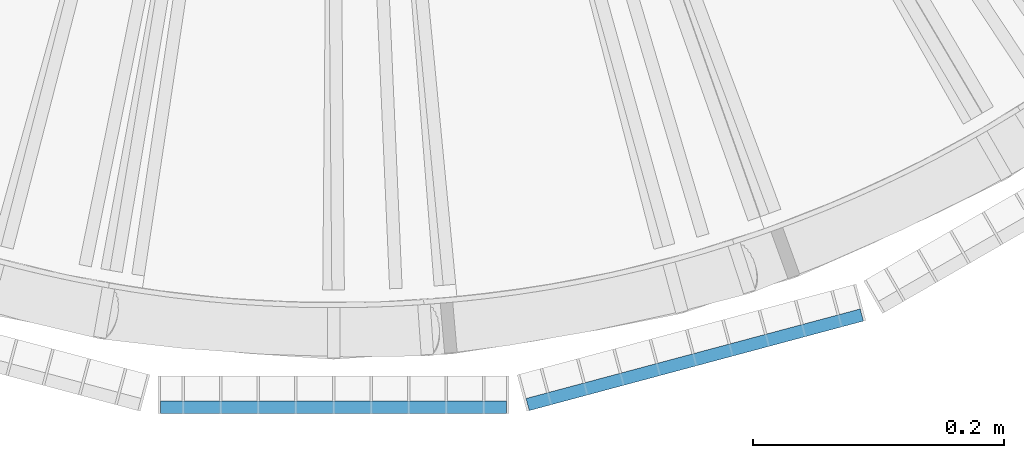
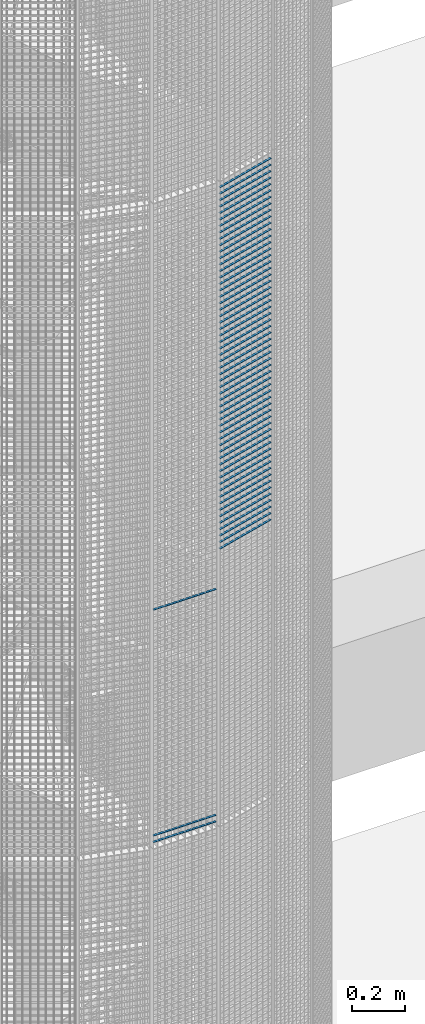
# One storey, part 383 of 1148: 60 beams, 2 elements without a shape of their own.
"""IFC2X3 building model written with IfcOpenShell, lengths in millimetres."""

from ifc_helpers import new_model, si_unit, frame, origin_with_axes, origin_2d_with_axis, place, context, subcontext, project, spatial, rectangle, extrude, material, type_object, element, aggregate, save


model = new_model("IFC2X3")

# Units and contexts
model_context = context("Model", 3, precision=1e-05, world=origin_with_axes())
body_context = subcontext(model_context, "Body", "Model", "MODEL_VIEW")
ifc_project = project(units=[si_unit("LENGTHUNIT", "METRE", prefix="MILLI"), si_unit("AREAUNIT", "SQUARE_METRE"), si_unit("VOLUMEUNIT", "CUBIC_METRE"), si_unit("MASSUNIT", "GRAM", prefix="KILO"), si_unit("TIMEUNIT", "SECOND"), si_unit("PLANEANGLEUNIT", "RADIAN"), si_unit("SOLIDANGLEUNIT", "STERADIAN"), si_unit("THERMODYNAMICTEMPERATUREUNIT", "DEGREE_CELSIUS"), si_unit("LUMINOUSINTENSITYUNIT", "LUMEN")], contexts=[model_context])

# Site, building, storey
site_placement = place(None, origin_with_axes())
site = spatial("IfcSite", under=ifc_project, at=site_placement, Name="Undefined", CompositionType="ELEMENT")
building_placement = place(site_placement, origin_with_axes())
building = spatial("IfcBuilding", under=site, at=building_placement, Name="Undefined", CompositionType="ELEMENT")
storey_placement = place(building_placement, origin_with_axes())
storey = spatial("IfcBuildingStorey", under=building, at=storey_placement, Name="Undefined", CompositionType="ELEMENT", Elevation=0.0)

# Assembly, beams
assembly_1_placement = place(storey_placement, origin_with_axes())
assembly_1 = element("IfcElementAssembly", 1, at=assembly_1_placement, inside=storey, Name="BORDURE", AssemblyPlace="NOTDEFINED", PredefinedType="NOTDEFINED")
ifc_material = material(Name="STEEL/S235JR")
beam_type = type_object("IfcBeamType", Name="PL2*10", PredefinedType="NOTDEFINED")
beam_1_placement = place(assembly_1_placement, frame((21737.9960033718, -1113.47999999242, 12060.0), z_axis=(0.0, -1.0, 0.0), x_axis=(-1.0, 0.0, 0.0)))
beam_1 = element("IfcBeam", 2, at=beam_1_placement, type_object=beam_type, material=ifc_material, Name="ENTRETOISE", context=body_context, shape_type="SweptSolid", body=[
    extrude(rectangle(XDim=2.0, YDim=10.0, at=origin_2d_with_axis()), frame((275.999999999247, 9.09494701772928e-13, 1.53210777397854e-14), z_axis=(-1.0, 0.0, 0.0), x_axis=(0.0, -1.0, 0.0)), (0.0, 0.0, 1.0), 276.0),
])
beam_2_placement = place(assembly_1_placement, frame((21737.9960033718, -1113.47999999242, 13110.0), z_axis=(0.0, -1.0, 0.0), x_axis=(-1.0, 0.0, 0.0)))
beam_2 = element("IfcBeam", 3, at=beam_2_placement, type_object=beam_type, material=ifc_material, Name="ENTRETOISE", context=body_context, shape_type="SweptSolid", body=[
    extrude(rectangle(XDim=2.0, YDim=10.0, at=origin_2d_with_axis()), frame((275.999999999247, 9.09494701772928e-13, 1.53210777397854e-14), z_axis=(-1.0, 0.0, 0.0), x_axis=(0.0, -1.0, 0.0)), (0.0, 0.0, 1.0), 276.0),
])
beam_3_placement = place(assembly_1_placement, frame((21737.9960033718, -1113.47999999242, 12030.0), z_axis=(0.0, -1.0, 0.0), x_axis=(-1.0, 0.0, 0.0)))
beam_3 = element("IfcBeam", 4, at=beam_3_placement, type_object=beam_type, material=ifc_material, Name="ENTRETOISE", context=body_context, shape_type="SweptSolid", body=[
    extrude(rectangle(XDim=2.0, YDim=10.0, at=origin_2d_with_axis()), frame((275.999999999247, 9.09494701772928e-13, 1.53210777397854e-14), z_axis=(-1.0, 0.0, 0.0), x_axis=(0.0, -1.0, 0.0)), (0.0, 0.0, 1.0), 276.0),
])
aggregate(assembly_1, [beam_1, beam_2, beam_3])

assembly_2_placement = place(storey_placement, origin_with_axes())
assembly_2 = element("IfcElementAssembly", 5, at=assembly_2_placement, inside=storey, Name="BORDURE", AssemblyPlace="NOTDEFINED", PredefinedType="NOTDEFINED")
beam_4_placement = place(assembly_2_placement, frame((22021.4837339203, -1039.82309522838, 14970.0), z_axis=(0.258819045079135, -0.965925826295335, 0.0), x_axis=(-0.965925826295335, -0.258819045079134, 0.0)))
beam_4 = element("IfcBeam", 6, at=beam_4_placement, type_object=beam_type, material=ifc_material, Name="ENTRETOISE", context=body_context, shape_type="SweptSolid", body=[
    extrude(rectangle(XDim=2.0, YDim=10.0, at=origin_2d_with_axis()), frame((275.999999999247, 9.09494701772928e-13, 1.53210777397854e-14), z_axis=(-1.0, 0.0, 0.0), x_axis=(0.0, -1.0, 0.0)), (0.0, 0.0, 1.0), 276.0),
])
beam_5_placement = place(assembly_2_placement, frame((22021.4837339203, -1039.82309522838, 14940.0), z_axis=(0.258819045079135, -0.965925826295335, 0.0), x_axis=(-0.965925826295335, -0.258819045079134, 0.0)))
beam_5 = element("IfcBeam", 7, at=beam_5_placement, type_object=beam_type, material=ifc_material, Name="ENTRETOISE", context=body_context, shape_type="SweptSolid", body=[
    extrude(rectangle(XDim=2.0, YDim=10.0, at=origin_2d_with_axis()), frame((275.999999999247, 9.09494701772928e-13, 1.53210777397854e-14), z_axis=(-1.0, 0.0, 0.0), x_axis=(0.0, -1.0, 0.0)), (0.0, 0.0, 1.0), 276.0),
])
beam_6_placement = place(assembly_2_placement, frame((22021.4837339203, -1039.82309522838, 14910.0), z_axis=(0.258819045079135, -0.965925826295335, 0.0), x_axis=(-0.965925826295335, -0.258819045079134, 0.0)))
beam_6 = element("IfcBeam", 8, at=beam_6_placement, type_object=beam_type, material=ifc_material, Name="ENTRETOISE", context=body_context, shape_type="SweptSolid", body=[
    extrude(rectangle(XDim=2.0, YDim=10.0, at=origin_2d_with_axis()), frame((275.999999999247, 9.09494701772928e-13, 1.53210777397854e-14), z_axis=(-1.0, 0.0, 0.0), x_axis=(0.0, -1.0, 0.0)), (0.0, 0.0, 1.0), 276.0),
])
beam_7_placement = place(assembly_2_placement, frame((22021.4837339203, -1039.82309522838, 14880.0), z_axis=(0.258819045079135, -0.965925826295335, 0.0), x_axis=(-0.965925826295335, -0.258819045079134, 0.0)))
beam_7 = element("IfcBeam", 9, at=beam_7_placement, type_object=beam_type, material=ifc_material, Name="ENTRETOISE", context=body_context, shape_type="SweptSolid", body=[
    extrude(rectangle(XDim=2.0, YDim=10.0, at=origin_2d_with_axis()), frame((275.999999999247, 9.09494701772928e-13, 1.53210777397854e-14), z_axis=(-1.0, 0.0, 0.0), x_axis=(0.0, -1.0, 0.0)), (0.0, 0.0, 1.0), 276.0),
])
beam_8_placement = place(assembly_2_placement, frame((22021.4837339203, -1039.82309522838, 14850.0), z_axis=(0.258819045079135, -0.965925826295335, 0.0), x_axis=(-0.965925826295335, -0.258819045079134, 0.0)))
beam_8 = element("IfcBeam", 10, at=beam_8_placement, type_object=beam_type, material=ifc_material, Name="ENTRETOISE", context=body_context, shape_type="SweptSolid", body=[
    extrude(rectangle(XDim=2.0, YDim=10.0, at=origin_2d_with_axis()), frame((275.999999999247, 9.09494701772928e-13, 1.53210777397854e-14), z_axis=(-1.0, 0.0, 0.0), x_axis=(0.0, -1.0, 0.0)), (0.0, 0.0, 1.0), 276.0),
])
beam_9_placement = place(assembly_2_placement, frame((22021.4837339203, -1039.82309522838, 14820.0), z_axis=(0.258819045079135, -0.965925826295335, 0.0), x_axis=(-0.965925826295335, -0.258819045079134, 0.0)))
beam_9 = element("IfcBeam", 11, at=beam_9_placement, type_object=beam_type, material=ifc_material, Name="ENTRETOISE", context=body_context, shape_type="SweptSolid", body=[
    extrude(rectangle(XDim=2.0, YDim=10.0, at=origin_2d_with_axis()), frame((275.999999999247, 9.09494701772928e-13, 1.53210777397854e-14), z_axis=(-1.0, 0.0, 0.0), x_axis=(0.0, -1.0, 0.0)), (0.0, 0.0, 1.0), 276.0),
])
beam_10_placement = place(assembly_2_placement, frame((22021.4837339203, -1039.82309522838, 14790.0), z_axis=(0.258819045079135, -0.965925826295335, 0.0), x_axis=(-0.965925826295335, -0.258819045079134, 0.0)))
beam_10 = element("IfcBeam", 12, at=beam_10_placement, type_object=beam_type, material=ifc_material, Name="ENTRETOISE", context=body_context, shape_type="SweptSolid", body=[
    extrude(rectangle(XDim=2.0, YDim=10.0, at=origin_2d_with_axis()), frame((275.999999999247, 9.09494701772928e-13, 1.53210777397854e-14), z_axis=(-1.0, 0.0, 0.0), x_axis=(0.0, -1.0, 0.0)), (0.0, 0.0, 1.0), 276.0),
])
beam_11_placement = place(assembly_2_placement, frame((22021.4837339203, -1039.82309522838, 14760.0), z_axis=(0.258819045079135, -0.965925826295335, 0.0), x_axis=(-0.965925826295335, -0.258819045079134, 0.0)))
beam_11 = element("IfcBeam", 13, at=beam_11_placement, type_object=beam_type, material=ifc_material, Name="ENTRETOISE", context=body_context, shape_type="SweptSolid", body=[
    extrude(rectangle(XDim=2.0, YDim=10.0, at=origin_2d_with_axis()), frame((275.999999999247, 9.09494701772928e-13, 1.53210777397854e-14), z_axis=(-1.0, 0.0, 0.0), x_axis=(0.0, -1.0, 0.0)), (0.0, 0.0, 1.0), 276.0),
])
beam_12_placement = place(assembly_2_placement, frame((22021.4837339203, -1039.82309522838, 14730.0), z_axis=(0.258819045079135, -0.965925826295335, 0.0), x_axis=(-0.965925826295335, -0.258819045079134, 0.0)))
beam_12 = element("IfcBeam", 14, at=beam_12_placement, type_object=beam_type, material=ifc_material, Name="ENTRETOISE", context=body_context, shape_type="SweptSolid", body=[
    extrude(rectangle(XDim=2.0, YDim=10.0, at=origin_2d_with_axis()), frame((275.999999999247, 9.09494701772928e-13, 1.53210777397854e-14), z_axis=(-1.0, 0.0, 0.0), x_axis=(0.0, -1.0, 0.0)), (0.0, 0.0, 1.0), 276.0),
])
beam_13_placement = place(assembly_2_placement, frame((22021.4837339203, -1039.82309522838, 14700.0), z_axis=(0.258819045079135, -0.965925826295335, 0.0), x_axis=(-0.965925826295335, -0.258819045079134, 0.0)))
beam_13 = element("IfcBeam", 15, at=beam_13_placement, type_object=beam_type, material=ifc_material, Name="ENTRETOISE", context=body_context, shape_type="SweptSolid", body=[
    extrude(rectangle(XDim=2.0, YDim=10.0, at=origin_2d_with_axis()), frame((275.999999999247, 9.09494701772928e-13, 1.53210777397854e-14), z_axis=(-1.0, 0.0, 0.0), x_axis=(0.0, -1.0, 0.0)), (0.0, 0.0, 1.0), 276.0),
])
beam_14_placement = place(assembly_2_placement, frame((22021.4837339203, -1039.82309522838, 14670.0), z_axis=(0.258819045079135, -0.965925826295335, 0.0), x_axis=(-0.965925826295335, -0.258819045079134, 0.0)))
beam_14 = element("IfcBeam", 16, at=beam_14_placement, type_object=beam_type, material=ifc_material, Name="ENTRETOISE", context=body_context, shape_type="SweptSolid", body=[
    extrude(rectangle(XDim=2.0, YDim=10.0, at=origin_2d_with_axis()), frame((275.999999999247, 9.09494701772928e-13, 1.53210777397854e-14), z_axis=(-1.0, 0.0, 0.0), x_axis=(0.0, -1.0, 0.0)), (0.0, 0.0, 1.0), 276.0),
])
beam_15_placement = place(assembly_2_placement, frame((22021.4837339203, -1039.82309522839, 14640.0), z_axis=(0.258819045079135, -0.965925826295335, 0.0), x_axis=(-0.965925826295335, -0.258819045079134, 0.0)))
beam_15 = element("IfcBeam", 17, at=beam_15_placement, type_object=beam_type, material=ifc_material, Name="ENTRETOISE", context=body_context, shape_type="SweptSolid", body=[
    extrude(rectangle(XDim=2.0, YDim=10.0, at=origin_2d_with_axis()), frame((275.999999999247, 9.09494701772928e-13, 1.53210777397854e-14), z_axis=(-1.0, 0.0, 0.0), x_axis=(0.0, -1.0, 0.0)), (0.0, 0.0, 1.0), 276.0),
])
beam_16_placement = place(assembly_2_placement, frame((22021.4837339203, -1039.82309522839, 14610.0), z_axis=(0.258819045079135, -0.965925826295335, 0.0), x_axis=(-0.965925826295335, -0.258819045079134, 0.0)))
beam_16 = element("IfcBeam", 18, at=beam_16_placement, type_object=beam_type, material=ifc_material, Name="ENTRETOISE", context=body_context, shape_type="SweptSolid", body=[
    extrude(rectangle(XDim=2.0, YDim=10.0, at=origin_2d_with_axis()), frame((275.999999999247, 9.09494701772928e-13, 1.53210777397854e-14), z_axis=(-1.0, 0.0, 0.0), x_axis=(0.0, -1.0, 0.0)), (0.0, 0.0, 1.0), 276.0),
])
beam_17_placement = place(assembly_2_placement, frame((22021.4837339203, -1039.82309522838, 14580.0), z_axis=(0.258819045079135, -0.965925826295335, 0.0), x_axis=(-0.965925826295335, -0.258819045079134, 0.0)))
beam_17 = element("IfcBeam", 19, at=beam_17_placement, type_object=beam_type, material=ifc_material, Name="ENTRETOISE", context=body_context, shape_type="SweptSolid", body=[
    extrude(rectangle(XDim=2.0, YDim=10.0, at=origin_2d_with_axis()), frame((275.999999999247, 9.09494701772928e-13, 1.53210777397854e-14), z_axis=(-1.0, 0.0, 0.0), x_axis=(0.0, -1.0, 0.0)), (0.0, 0.0, 1.0), 276.0),
])
beam_18_placement = place(assembly_2_placement, frame((22021.4837339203, -1039.82309522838, 14550.0), z_axis=(0.258819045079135, -0.965925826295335, 0.0), x_axis=(-0.965925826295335, -0.258819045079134, 0.0)))
beam_18 = element("IfcBeam", 20, at=beam_18_placement, type_object=beam_type, material=ifc_material, Name="ENTRETOISE", context=body_context, shape_type="SweptSolid", body=[
    extrude(rectangle(XDim=2.0, YDim=10.0, at=origin_2d_with_axis()), frame((275.999999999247, 9.09494701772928e-13, 1.53210777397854e-14), z_axis=(-1.0, 0.0, 0.0), x_axis=(0.0, -1.0, 0.0)), (0.0, 0.0, 1.0), 276.0),
])
beam_19_placement = place(assembly_2_placement, frame((22021.4837339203, -1039.82309522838, 14520.0), z_axis=(0.258819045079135, -0.965925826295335, 0.0), x_axis=(-0.965925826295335, -0.258819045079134, 0.0)))
beam_19 = element("IfcBeam", 21, at=beam_19_placement, type_object=beam_type, material=ifc_material, Name="ENTRETOISE", context=body_context, shape_type="SweptSolid", body=[
    extrude(rectangle(XDim=2.0, YDim=10.0, at=origin_2d_with_axis()), frame((275.999999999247, 9.09494701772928e-13, 1.53210777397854e-14), z_axis=(-1.0, 0.0, 0.0), x_axis=(0.0, -1.0, 0.0)), (0.0, 0.0, 1.0), 276.0),
])
beam_20_placement = place(assembly_2_placement, frame((22021.4837339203, -1039.82309522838, 14490.0), z_axis=(0.258819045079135, -0.965925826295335, 0.0), x_axis=(-0.965925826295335, -0.258819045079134, 0.0)))
beam_20 = element("IfcBeam", 22, at=beam_20_placement, type_object=beam_type, material=ifc_material, Name="ENTRETOISE", context=body_context, shape_type="SweptSolid", body=[
    extrude(rectangle(XDim=2.0, YDim=10.0, at=origin_2d_with_axis()), frame((275.999999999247, 9.09494701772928e-13, 1.53210777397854e-14), z_axis=(-1.0, 0.0, 0.0), x_axis=(0.0, -1.0, 0.0)), (0.0, 0.0, 1.0), 276.0),
])
beam_21_placement = place(assembly_2_placement, frame((22021.4837339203, -1039.82309522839, 14460.0), z_axis=(0.258819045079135, -0.965925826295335, 0.0), x_axis=(-0.965925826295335, -0.258819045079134, 0.0)))
beam_21 = element("IfcBeam", 23, at=beam_21_placement, type_object=beam_type, material=ifc_material, Name="ENTRETOISE", context=body_context, shape_type="SweptSolid", body=[
    extrude(rectangle(XDim=2.0, YDim=10.0, at=origin_2d_with_axis()), frame((275.999999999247, 9.09494701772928e-13, 1.53210777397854e-14), z_axis=(-1.0, 0.0, 0.0), x_axis=(0.0, -1.0, 0.0)), (0.0, 0.0, 1.0), 276.0),
])
beam_22_placement = place(assembly_2_placement, frame((22021.4837339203, -1039.82309522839, 14430.0), z_axis=(0.258819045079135, -0.965925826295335, 0.0), x_axis=(-0.965925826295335, -0.258819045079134, 0.0)))
beam_22 = element("IfcBeam", 24, at=beam_22_placement, type_object=beam_type, material=ifc_material, Name="ENTRETOISE", context=body_context, shape_type="SweptSolid", body=[
    extrude(rectangle(XDim=2.0, YDim=10.0, at=origin_2d_with_axis()), frame((275.999999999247, 9.09494701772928e-13, 1.53210777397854e-14), z_axis=(-1.0, 0.0, 0.0), x_axis=(0.0, -1.0, 0.0)), (0.0, 0.0, 1.0), 276.0),
])
beam_23_placement = place(assembly_2_placement, frame((22021.4837339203, -1039.82309522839, 14400.0), z_axis=(0.258819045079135, -0.965925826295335, 0.0), x_axis=(-0.965925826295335, -0.258819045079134, 0.0)))
beam_23 = element("IfcBeam", 25, at=beam_23_placement, type_object=beam_type, material=ifc_material, Name="ENTRETOISE", context=body_context, shape_type="SweptSolid", body=[
    extrude(rectangle(XDim=2.0, YDim=10.0, at=origin_2d_with_axis()), frame((275.999999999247, 9.09494701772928e-13, 1.53210777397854e-14), z_axis=(-1.0, 0.0, 0.0), x_axis=(0.0, -1.0, 0.0)), (0.0, 0.0, 1.0), 276.0),
])
beam_24_placement = place(assembly_2_placement, frame((22021.4837339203, -1039.82309522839, 14370.0), z_axis=(0.258819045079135, -0.965925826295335, 0.0), x_axis=(-0.965925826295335, -0.258819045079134, 0.0)))
beam_24 = element("IfcBeam", 26, at=beam_24_placement, type_object=beam_type, material=ifc_material, Name="ENTRETOISE", context=body_context, shape_type="SweptSolid", body=[
    extrude(rectangle(XDim=2.0, YDim=10.0, at=origin_2d_with_axis()), frame((275.999999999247, 9.09494701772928e-13, 1.53210777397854e-14), z_axis=(-1.0, 0.0, 0.0), x_axis=(0.0, -1.0, 0.0)), (0.0, 0.0, 1.0), 276.0),
])
beam_25_placement = place(assembly_2_placement, frame((22021.4837339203, -1039.82309522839, 14340.0), z_axis=(0.258819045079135, -0.965925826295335, 0.0), x_axis=(-0.965925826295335, -0.258819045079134, 0.0)))
beam_25 = element("IfcBeam", 27, at=beam_25_placement, type_object=beam_type, material=ifc_material, Name="ENTRETOISE", context=body_context, shape_type="SweptSolid", body=[
    extrude(rectangle(XDim=2.0, YDim=10.0, at=origin_2d_with_axis()), frame((275.999999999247, 9.09494701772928e-13, 1.53210777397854e-14), z_axis=(-1.0, 0.0, 0.0), x_axis=(0.0, -1.0, 0.0)), (0.0, 0.0, 1.0), 276.0),
])
beam_26_placement = place(assembly_2_placement, frame((22021.4837339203, -1039.82309522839, 14310.0), z_axis=(0.258819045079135, -0.965925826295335, 0.0), x_axis=(-0.965925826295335, -0.258819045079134, 0.0)))
beam_26 = element("IfcBeam", 28, at=beam_26_placement, type_object=beam_type, material=ifc_material, Name="ENTRETOISE", context=body_context, shape_type="SweptSolid", body=[
    extrude(rectangle(XDim=2.0, YDim=10.0, at=origin_2d_with_axis()), frame((275.999999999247, 9.09494701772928e-13, 1.53210777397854e-14), z_axis=(-1.0, 0.0, 0.0), x_axis=(0.0, -1.0, 0.0)), (0.0, 0.0, 1.0), 276.0),
])
beam_27_placement = place(assembly_2_placement, frame((22021.4837339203, -1039.82309522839, 14280.0), z_axis=(0.258819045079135, -0.965925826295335, 0.0), x_axis=(-0.965925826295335, -0.258819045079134, 0.0)))
beam_27 = element("IfcBeam", 29, at=beam_27_placement, type_object=beam_type, material=ifc_material, Name="ENTRETOISE", context=body_context, shape_type="SweptSolid", body=[
    extrude(rectangle(XDim=2.0, YDim=10.0, at=origin_2d_with_axis()), frame((275.999999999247, 9.09494701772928e-13, 1.53210777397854e-14), z_axis=(-1.0, 0.0, 0.0), x_axis=(0.0, -1.0, 0.0)), (0.0, 0.0, 1.0), 276.0),
])
beam_28_placement = place(assembly_2_placement, frame((22021.4837339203, -1039.82309522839, 14250.0), z_axis=(0.258819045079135, -0.965925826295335, 0.0), x_axis=(-0.965925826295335, -0.258819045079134, 0.0)))
beam_28 = element("IfcBeam", 30, at=beam_28_placement, type_object=beam_type, material=ifc_material, Name="ENTRETOISE", context=body_context, shape_type="SweptSolid", body=[
    extrude(rectangle(XDim=2.0, YDim=10.0, at=origin_2d_with_axis()), frame((275.999999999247, 9.09494701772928e-13, 1.53210777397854e-14), z_axis=(-1.0, 0.0, 0.0), x_axis=(0.0, -1.0, 0.0)), (0.0, 0.0, 1.0), 276.0),
])
beam_29_placement = place(assembly_2_placement, frame((22021.4837339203, -1039.82309522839, 14220.0), z_axis=(0.258819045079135, -0.965925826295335, 0.0), x_axis=(-0.965925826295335, -0.258819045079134, 0.0)))
beam_29 = element("IfcBeam", 31, at=beam_29_placement, type_object=beam_type, material=ifc_material, Name="ENTRETOISE", context=body_context, shape_type="SweptSolid", body=[
    extrude(rectangle(XDim=2.0, YDim=10.0, at=origin_2d_with_axis()), frame((275.999999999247, 9.09494701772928e-13, 1.53210777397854e-14), z_axis=(-1.0, 0.0, 0.0), x_axis=(0.0, -1.0, 0.0)), (0.0, 0.0, 1.0), 276.0),
])
beam_30_placement = place(assembly_2_placement, frame((22021.4837339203, -1039.82309522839, 14190.0), z_axis=(0.258819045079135, -0.965925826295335, 0.0), x_axis=(-0.965925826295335, -0.258819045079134, 0.0)))
beam_30 = element("IfcBeam", 32, at=beam_30_placement, type_object=beam_type, material=ifc_material, Name="ENTRETOISE", context=body_context, shape_type="SweptSolid", body=[
    extrude(rectangle(XDim=2.0, YDim=10.0, at=origin_2d_with_axis()), frame((275.999999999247, 9.09494701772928e-13, 1.53210777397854e-14), z_axis=(-1.0, 0.0, 0.0), x_axis=(0.0, -1.0, 0.0)), (0.0, 0.0, 1.0), 276.0),
])
beam_31_placement = place(assembly_2_placement, frame((22021.4837339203, -1039.82309522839, 14160.0), z_axis=(0.258819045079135, -0.965925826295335, 0.0), x_axis=(-0.965925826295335, -0.258819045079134, 0.0)))
beam_31 = element("IfcBeam", 33, at=beam_31_placement, type_object=beam_type, material=ifc_material, Name="ENTRETOISE", context=body_context, shape_type="SweptSolid", body=[
    extrude(rectangle(XDim=2.0, YDim=10.0, at=origin_2d_with_axis()), frame((275.999999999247, 9.09494701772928e-13, 1.53210777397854e-14), z_axis=(-1.0, 0.0, 0.0), x_axis=(0.0, -1.0, 0.0)), (0.0, 0.0, 1.0), 276.0),
])
beam_32_placement = place(assembly_2_placement, frame((22021.4837339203, -1039.82309522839, 14130.0), z_axis=(0.258819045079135, -0.965925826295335, 0.0), x_axis=(-0.965925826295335, -0.258819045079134, 0.0)))
beam_32 = element("IfcBeam", 34, at=beam_32_placement, type_object=beam_type, material=ifc_material, Name="ENTRETOISE", context=body_context, shape_type="SweptSolid", body=[
    extrude(rectangle(XDim=2.0, YDim=10.0, at=origin_2d_with_axis()), frame((275.999999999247, 9.09494701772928e-13, 1.53210777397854e-14), z_axis=(-1.0, 0.0, 0.0), x_axis=(0.0, -1.0, 0.0)), (0.0, 0.0, 1.0), 276.0),
])
beam_33_placement = place(assembly_2_placement, frame((22021.4837339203, -1039.82309522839, 14100.0), z_axis=(0.258819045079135, -0.965925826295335, 0.0), x_axis=(-0.965925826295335, -0.258819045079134, 0.0)))
beam_33 = element("IfcBeam", 35, at=beam_33_placement, type_object=beam_type, material=ifc_material, Name="ENTRETOISE", context=body_context, shape_type="SweptSolid", body=[
    extrude(rectangle(XDim=2.0, YDim=10.0, at=origin_2d_with_axis()), frame((275.999999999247, 9.09494701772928e-13, 1.53210777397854e-14), z_axis=(-1.0, 0.0, 0.0), x_axis=(0.0, -1.0, 0.0)), (0.0, 0.0, 1.0), 276.0),
])
beam_34_placement = place(assembly_2_placement, frame((22021.4837339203, -1039.82309522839, 14070.0), z_axis=(0.258819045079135, -0.965925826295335, 0.0), x_axis=(-0.965925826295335, -0.258819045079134, 0.0)))
beam_34 = element("IfcBeam", 36, at=beam_34_placement, type_object=beam_type, material=ifc_material, Name="ENTRETOISE", context=body_context, shape_type="SweptSolid", body=[
    extrude(rectangle(XDim=2.0, YDim=10.0, at=origin_2d_with_axis()), frame((275.999999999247, 9.09494701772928e-13, 1.53210777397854e-14), z_axis=(-1.0, 0.0, 0.0), x_axis=(0.0, -1.0, 0.0)), (0.0, 0.0, 1.0), 276.0),
])
beam_35_placement = place(assembly_2_placement, frame((22021.4837339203, -1039.82309522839, 14040.0), z_axis=(0.258819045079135, -0.965925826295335, 0.0), x_axis=(-0.965925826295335, -0.258819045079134, 0.0)))
beam_35 = element("IfcBeam", 37, at=beam_35_placement, type_object=beam_type, material=ifc_material, Name="ENTRETOISE", context=body_context, shape_type="SweptSolid", body=[
    extrude(rectangle(XDim=2.0, YDim=10.0, at=origin_2d_with_axis()), frame((275.999999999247, 9.09494701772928e-13, 1.53210777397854e-14), z_axis=(-1.0, 0.0, 0.0), x_axis=(0.0, -1.0, 0.0)), (0.0, 0.0, 1.0), 276.0),
])
beam_36_placement = place(assembly_2_placement, frame((22021.4837339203, -1039.82309522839, 14010.0), z_axis=(0.258819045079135, -0.965925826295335, 0.0), x_axis=(-0.965925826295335, -0.258819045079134, 0.0)))
beam_36 = element("IfcBeam", 38, at=beam_36_placement, type_object=beam_type, material=ifc_material, Name="ENTRETOISE", context=body_context, shape_type="SweptSolid", body=[
    extrude(rectangle(XDim=2.0, YDim=10.0, at=origin_2d_with_axis()), frame((275.999999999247, 9.09494701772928e-13, 1.53210777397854e-14), z_axis=(-1.0, 0.0, 0.0), x_axis=(0.0, -1.0, 0.0)), (0.0, 0.0, 1.0), 276.0),
])
beam_37_placement = place(assembly_2_placement, frame((22021.4837339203, -1039.82309522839, 13980.0), z_axis=(0.258819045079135, -0.965925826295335, 0.0), x_axis=(-0.965925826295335, -0.258819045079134, 0.0)))
beam_37 = element("IfcBeam", 39, at=beam_37_placement, type_object=beam_type, material=ifc_material, Name="ENTRETOISE", context=body_context, shape_type="SweptSolid", body=[
    extrude(rectangle(XDim=2.0, YDim=10.0, at=origin_2d_with_axis()), frame((275.999999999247, 9.09494701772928e-13, 1.53210777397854e-14), z_axis=(-1.0, 0.0, 0.0), x_axis=(0.0, -1.0, 0.0)), (0.0, 0.0, 1.0), 276.0),
])
beam_38_placement = place(assembly_2_placement, frame((22021.4837339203, -1039.82309522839, 13950.0), z_axis=(0.258819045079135, -0.965925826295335, 0.0), x_axis=(-0.965925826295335, -0.258819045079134, 0.0)))
beam_38 = element("IfcBeam", 40, at=beam_38_placement, type_object=beam_type, material=ifc_material, Name="ENTRETOISE", context=body_context, shape_type="SweptSolid", body=[
    extrude(rectangle(XDim=2.0, YDim=10.0, at=origin_2d_with_axis()), frame((275.999999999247, 9.09494701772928e-13, 1.53210777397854e-14), z_axis=(-1.0, 0.0, 0.0), x_axis=(0.0, -1.0, 0.0)), (0.0, 0.0, 1.0), 276.0),
])
beam_39_placement = place(assembly_2_placement, frame((22021.4837339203, -1039.82309522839, 13920.0), z_axis=(0.258819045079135, -0.965925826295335, 0.0), x_axis=(-0.965925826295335, -0.258819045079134, 0.0)))
beam_39 = element("IfcBeam", 41, at=beam_39_placement, type_object=beam_type, material=ifc_material, Name="ENTRETOISE", context=body_context, shape_type="SweptSolid", body=[
    extrude(rectangle(XDim=2.0, YDim=10.0, at=origin_2d_with_axis()), frame((275.999999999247, 9.09494701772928e-13, 1.53210777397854e-14), z_axis=(-1.0, 0.0, 0.0), x_axis=(0.0, -1.0, 0.0)), (0.0, 0.0, 1.0), 276.0),
])
beam_40_placement = place(assembly_2_placement, frame((22021.4837339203, -1039.82309522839, 13890.0), z_axis=(0.258819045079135, -0.965925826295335, 0.0), x_axis=(-0.965925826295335, -0.258819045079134, 0.0)))
beam_40 = element("IfcBeam", 42, at=beam_40_placement, type_object=beam_type, material=ifc_material, Name="ENTRETOISE", context=body_context, shape_type="SweptSolid", body=[
    extrude(rectangle(XDim=2.0, YDim=10.0, at=origin_2d_with_axis()), frame((275.999999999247, 9.09494701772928e-13, 1.53210777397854e-14), z_axis=(-1.0, 0.0, 0.0), x_axis=(0.0, -1.0, 0.0)), (0.0, 0.0, 1.0), 276.0),
])
beam_41_placement = place(assembly_2_placement, frame((22021.4837339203, -1039.82309522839, 13860.0), z_axis=(0.258819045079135, -0.965925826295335, 0.0), x_axis=(-0.965925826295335, -0.258819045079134, 0.0)))
beam_41 = element("IfcBeam", 43, at=beam_41_placement, type_object=beam_type, material=ifc_material, Name="ENTRETOISE", context=body_context, shape_type="SweptSolid", body=[
    extrude(rectangle(XDim=2.0, YDim=10.0, at=origin_2d_with_axis()), frame((275.999999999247, 9.09494701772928e-13, 1.53210777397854e-14), z_axis=(-1.0, 0.0, 0.0), x_axis=(0.0, -1.0, 0.0)), (0.0, 0.0, 1.0), 276.0),
])
beam_42_placement = place(assembly_2_placement, frame((22021.4837339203, -1039.82309522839, 13830.0), z_axis=(0.258819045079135, -0.965925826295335, 0.0), x_axis=(-0.965925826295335, -0.258819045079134, 0.0)))
beam_42 = element("IfcBeam", 44, at=beam_42_placement, type_object=beam_type, material=ifc_material, Name="ENTRETOISE", context=body_context, shape_type="SweptSolid", body=[
    extrude(rectangle(XDim=2.0, YDim=10.0, at=origin_2d_with_axis()), frame((275.999999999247, 9.09494701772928e-13, 1.53210777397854e-14), z_axis=(-1.0, 0.0, 0.0), x_axis=(0.0, -1.0, 0.0)), (0.0, 0.0, 1.0), 276.0),
])
beam_43_placement = place(assembly_2_placement, frame((22021.4837339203, -1039.82309522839, 13800.0), z_axis=(0.258819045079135, -0.965925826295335, 0.0), x_axis=(-0.965925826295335, -0.258819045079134, 0.0)))
beam_43 = element("IfcBeam", 45, at=beam_43_placement, type_object=beam_type, material=ifc_material, Name="ENTRETOISE", context=body_context, shape_type="SweptSolid", body=[
    extrude(rectangle(XDim=2.0, YDim=10.0, at=origin_2d_with_axis()), frame((275.999999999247, 9.09494701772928e-13, 1.53210777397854e-14), z_axis=(-1.0, 0.0, 0.0), x_axis=(0.0, -1.0, 0.0)), (0.0, 0.0, 1.0), 276.0),
])
beam_44_placement = place(assembly_2_placement, frame((22021.4837339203, -1039.82309522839, 13770.0), z_axis=(0.258819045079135, -0.965925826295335, 0.0), x_axis=(-0.965925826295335, -0.258819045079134, 0.0)))
beam_44 = element("IfcBeam", 46, at=beam_44_placement, type_object=beam_type, material=ifc_material, Name="ENTRETOISE", context=body_context, shape_type="SweptSolid", body=[
    extrude(rectangle(XDim=2.0, YDim=10.0, at=origin_2d_with_axis()), frame((275.999999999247, 9.09494701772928e-13, 1.53210777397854e-14), z_axis=(-1.0, 0.0, 0.0), x_axis=(0.0, -1.0, 0.0)), (0.0, 0.0, 1.0), 276.0),
])
beam_45_placement = place(assembly_2_placement, frame((22021.4837339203, -1039.82309522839, 13740.0), z_axis=(0.258819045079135, -0.965925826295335, 0.0), x_axis=(-0.965925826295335, -0.258819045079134, 0.0)))
beam_45 = element("IfcBeam", 47, at=beam_45_placement, type_object=beam_type, material=ifc_material, Name="ENTRETOISE", context=body_context, shape_type="SweptSolid", body=[
    extrude(rectangle(XDim=2.0, YDim=10.0, at=origin_2d_with_axis()), frame((275.999999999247, 9.09494701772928e-13, 1.53210777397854e-14), z_axis=(-1.0, 0.0, 0.0), x_axis=(0.0, -1.0, 0.0)), (0.0, 0.0, 1.0), 276.0),
])
beam_46_placement = place(assembly_2_placement, frame((22021.4837339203, -1039.82309522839, 13710.0), z_axis=(0.258819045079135, -0.965925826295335, 0.0), x_axis=(-0.965925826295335, -0.258819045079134, 0.0)))
beam_46 = element("IfcBeam", 48, at=beam_46_placement, type_object=beam_type, material=ifc_material, Name="ENTRETOISE", context=body_context, shape_type="SweptSolid", body=[
    extrude(rectangle(XDim=2.0, YDim=10.0, at=origin_2d_with_axis()), frame((275.999999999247, 9.09494701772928e-13, 1.53210777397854e-14), z_axis=(-1.0, 0.0, 0.0), x_axis=(0.0, -1.0, 0.0)), (0.0, 0.0, 1.0), 276.0),
])
beam_47_placement = place(assembly_2_placement, frame((22021.4837339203, -1039.82309522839, 13680.0), z_axis=(0.258819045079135, -0.965925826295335, 0.0), x_axis=(-0.965925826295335, -0.258819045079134, 0.0)))
beam_47 = element("IfcBeam", 49, at=beam_47_placement, type_object=beam_type, material=ifc_material, Name="ENTRETOISE", context=body_context, shape_type="SweptSolid", body=[
    extrude(rectangle(XDim=2.0, YDim=10.0, at=origin_2d_with_axis()), frame((275.999999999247, 9.09494701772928e-13, 1.53210777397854e-14), z_axis=(-1.0, 0.0, 0.0), x_axis=(0.0, -1.0, 0.0)), (0.0, 0.0, 1.0), 276.0),
])
beam_48_placement = place(assembly_2_placement, frame((22021.4837339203, -1039.82309522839, 13650.0), z_axis=(0.258819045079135, -0.965925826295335, 0.0), x_axis=(-0.965925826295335, -0.258819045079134, 0.0)))
beam_48 = element("IfcBeam", 50, at=beam_48_placement, type_object=beam_type, material=ifc_material, Name="ENTRETOISE", context=body_context, shape_type="SweptSolid", body=[
    extrude(rectangle(XDim=2.0, YDim=10.0, at=origin_2d_with_axis()), frame((275.999999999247, 9.09494701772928e-13, 1.53210777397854e-14), z_axis=(-1.0, 0.0, 0.0), x_axis=(0.0, -1.0, 0.0)), (0.0, 0.0, 1.0), 276.0),
])
beam_49_placement = place(assembly_2_placement, frame((22021.4837339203, -1039.82309522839, 13620.0), z_axis=(0.258819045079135, -0.965925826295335, 0.0), x_axis=(-0.965925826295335, -0.258819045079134, 0.0)))
beam_49 = element("IfcBeam", 51, at=beam_49_placement, type_object=beam_type, material=ifc_material, Name="ENTRETOISE", context=body_context, shape_type="SweptSolid", body=[
    extrude(rectangle(XDim=2.0, YDim=10.0, at=origin_2d_with_axis()), frame((275.999999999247, 9.09494701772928e-13, 1.53210777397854e-14), z_axis=(-1.0, 0.0, 0.0), x_axis=(0.0, -1.0, 0.0)), (0.0, 0.0, 1.0), 276.0),
])
beam_50_placement = place(assembly_2_placement, frame((22021.4837339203, -1039.82309522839, 13590.0), z_axis=(0.258819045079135, -0.965925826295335, 0.0), x_axis=(-0.965925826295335, -0.258819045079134, 0.0)))
beam_50 = element("IfcBeam", 52, at=beam_50_placement, type_object=beam_type, material=ifc_material, Name="ENTRETOISE", context=body_context, shape_type="SweptSolid", body=[
    extrude(rectangle(XDim=2.0, YDim=10.0, at=origin_2d_with_axis()), frame((275.999999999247, 9.09494701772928e-13, 1.53210777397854e-14), z_axis=(-1.0, 0.0, 0.0), x_axis=(0.0, -1.0, 0.0)), (0.0, 0.0, 1.0), 276.0),
])
beam_51_placement = place(assembly_2_placement, frame((22021.4837339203, -1039.82309522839, 13560.0), z_axis=(0.258819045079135, -0.965925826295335, 0.0), x_axis=(-0.965925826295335, -0.258819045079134, 0.0)))
beam_51 = element("IfcBeam", 53, at=beam_51_placement, type_object=beam_type, material=ifc_material, Name="ENTRETOISE", context=body_context, shape_type="SweptSolid", body=[
    extrude(rectangle(XDim=2.0, YDim=10.0, at=origin_2d_with_axis()), frame((275.999999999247, 9.09494701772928e-13, 1.53210777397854e-14), z_axis=(-1.0, 0.0, 0.0), x_axis=(0.0, -1.0, 0.0)), (0.0, 0.0, 1.0), 276.0),
])
beam_52_placement = place(assembly_2_placement, frame((22021.4837339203, -1039.82309522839, 13530.0), z_axis=(0.258819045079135, -0.965925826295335, 0.0), x_axis=(-0.965925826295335, -0.258819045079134, 0.0)))
beam_52 = element("IfcBeam", 54, at=beam_52_placement, type_object=beam_type, material=ifc_material, Name="ENTRETOISE", context=body_context, shape_type="SweptSolid", body=[
    extrude(rectangle(XDim=2.0, YDim=10.0, at=origin_2d_with_axis()), frame((275.999999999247, 9.09494701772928e-13, 1.53210777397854e-14), z_axis=(-1.0, 0.0, 0.0), x_axis=(0.0, -1.0, 0.0)), (0.0, 0.0, 1.0), 276.0),
])
beam_53_placement = place(assembly_2_placement, frame((22021.4837339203, -1039.82309522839, 13500.0), z_axis=(0.258819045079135, -0.965925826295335, 0.0), x_axis=(-0.965925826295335, -0.258819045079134, 0.0)))
beam_53 = element("IfcBeam", 55, at=beam_53_placement, type_object=beam_type, material=ifc_material, Name="ENTRETOISE", context=body_context, shape_type="SweptSolid", body=[
    extrude(rectangle(XDim=2.0, YDim=10.0, at=origin_2d_with_axis()), frame((275.999999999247, 9.09494701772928e-13, 1.53210777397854e-14), z_axis=(-1.0, 0.0, 0.0), x_axis=(0.0, -1.0, 0.0)), (0.0, 0.0, 1.0), 276.0),
])
beam_54_placement = place(assembly_2_placement, frame((22021.4837339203, -1039.82309522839, 13470.0), z_axis=(0.258819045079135, -0.965925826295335, 0.0), x_axis=(-0.965925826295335, -0.258819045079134, 0.0)))
beam_54 = element("IfcBeam", 56, at=beam_54_placement, type_object=beam_type, material=ifc_material, Name="ENTRETOISE", context=body_context, shape_type="SweptSolid", body=[
    extrude(rectangle(XDim=2.0, YDim=10.0, at=origin_2d_with_axis()), frame((275.999999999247, 9.09494701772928e-13, 1.53210777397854e-14), z_axis=(-1.0, 0.0, 0.0), x_axis=(0.0, -1.0, 0.0)), (0.0, 0.0, 1.0), 276.0),
])
beam_55_placement = place(assembly_2_placement, frame((22021.4837339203, -1039.82309522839, 13440.0), z_axis=(0.258819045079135, -0.965925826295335, 0.0), x_axis=(-0.965925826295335, -0.258819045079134, 0.0)))
beam_55 = element("IfcBeam", 57, at=beam_55_placement, type_object=beam_type, material=ifc_material, Name="ENTRETOISE", context=body_context, shape_type="SweptSolid", body=[
    extrude(rectangle(XDim=2.0, YDim=10.0, at=origin_2d_with_axis()), frame((275.999999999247, 9.09494701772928e-13, 1.53210777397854e-14), z_axis=(-1.0, 0.0, 0.0), x_axis=(0.0, -1.0, 0.0)), (0.0, 0.0, 1.0), 276.0),
])
beam_56_placement = place(assembly_2_placement, frame((22021.4837339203, -1039.82309522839, 13410.0), z_axis=(0.258819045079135, -0.965925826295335, 0.0), x_axis=(-0.965925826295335, -0.258819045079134, 0.0)))
beam_56 = element("IfcBeam", 58, at=beam_56_placement, type_object=beam_type, material=ifc_material, Name="ENTRETOISE", context=body_context, shape_type="SweptSolid", body=[
    extrude(rectangle(XDim=2.0, YDim=10.0, at=origin_2d_with_axis()), frame((275.999999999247, 9.09494701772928e-13, 1.53210777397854e-14), z_axis=(-1.0, 0.0, 0.0), x_axis=(0.0, -1.0, 0.0)), (0.0, 0.0, 1.0), 276.0),
])
beam_57_placement = place(assembly_2_placement, frame((22021.4837339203, -1039.82309522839, 13380.0), z_axis=(0.258819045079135, -0.965925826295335, 0.0), x_axis=(-0.965925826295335, -0.258819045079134, 0.0)))
beam_57 = element("IfcBeam", 59, at=beam_57_placement, type_object=beam_type, material=ifc_material, Name="ENTRETOISE", context=body_context, shape_type="SweptSolid", body=[
    extrude(rectangle(XDim=2.0, YDim=10.0, at=origin_2d_with_axis()), frame((275.999999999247, 9.09494701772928e-13, 1.53210777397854e-14), z_axis=(-1.0, 0.0, 0.0), x_axis=(0.0, -1.0, 0.0)), (0.0, 0.0, 1.0), 276.0),
])
beam_58_placement = place(assembly_2_placement, frame((22021.4837339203, -1039.82309522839, 13350.0), z_axis=(0.258819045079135, -0.965925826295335, 0.0), x_axis=(-0.965925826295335, -0.258819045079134, 0.0)))
beam_58 = element("IfcBeam", 60, at=beam_58_placement, type_object=beam_type, material=ifc_material, Name="ENTRETOISE", context=body_context, shape_type="SweptSolid", body=[
    extrude(rectangle(XDim=2.0, YDim=10.0, at=origin_2d_with_axis()), frame((275.999999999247, 9.09494701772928e-13, 1.53210777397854e-14), z_axis=(-1.0, 0.0, 0.0), x_axis=(0.0, -1.0, 0.0)), (0.0, 0.0, 1.0), 276.0),
])
beam_59_placement = place(assembly_2_placement, frame((22021.4837339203, -1039.82309522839, 13320.0), z_axis=(0.258819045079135, -0.965925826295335, 0.0), x_axis=(-0.965925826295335, -0.258819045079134, 0.0)))
beam_59 = element("IfcBeam", 61, at=beam_59_placement, type_object=beam_type, material=ifc_material, Name="ENTRETOISE", context=body_context, shape_type="SweptSolid", body=[
    extrude(rectangle(XDim=2.0, YDim=10.0, at=origin_2d_with_axis()), frame((275.999999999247, 9.09494701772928e-13, 1.53210777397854e-14), z_axis=(-1.0, 0.0, 0.0), x_axis=(0.0, -1.0, 0.0)), (0.0, 0.0, 1.0), 276.0),
])
beam_60_placement = place(assembly_2_placement, frame((22021.4837339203, -1039.82309522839, 13290.0), z_axis=(0.258819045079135, -0.965925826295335, 0.0), x_axis=(-0.965925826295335, -0.258819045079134, 0.0)))
beam_60 = element("IfcBeam", 62, at=beam_60_placement, type_object=beam_type, material=ifc_material, Name="ENTRETOISE", context=body_context, shape_type="SweptSolid", body=[
    extrude(rectangle(XDim=2.0, YDim=10.0, at=origin_2d_with_axis()), frame((275.999999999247, 9.09494701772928e-13, 1.53210777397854e-14), z_axis=(-1.0, 0.0, 0.0), x_axis=(0.0, -1.0, 0.0)), (0.0, 0.0, 1.0), 276.0),
])
aggregate(assembly_2, [beam_4, beam_5, beam_6, beam_7, beam_8, beam_9, beam_10, beam_11, beam_12, beam_13, beam_14, beam_15, beam_16, beam_17, beam_18, beam_19, beam_20, beam_21, beam_22, beam_23, beam_24, beam_25, beam_26, beam_27, beam_28, beam_29, beam_30, beam_31, beam_32, beam_33, beam_34, beam_35, beam_36, beam_37, beam_38, beam_39, beam_40, beam_41, beam_42, beam_43, beam_44, beam_45, beam_46, beam_47, beam_48, beam_49, beam_50, beam_51, beam_52, beam_53, beam_54, beam_55, beam_56, beam_57, beam_58, beam_59, beam_60])

save(model, "model.ifc")
